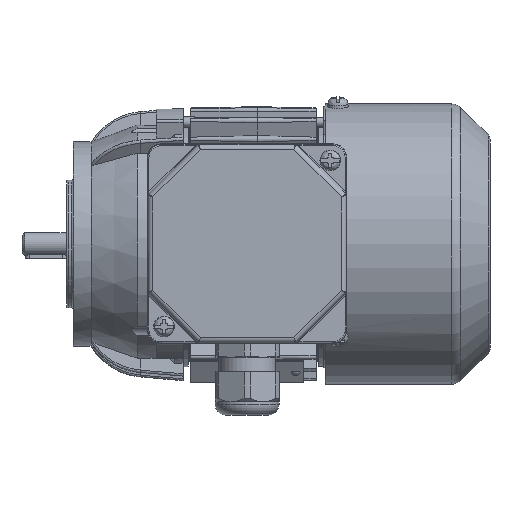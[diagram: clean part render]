
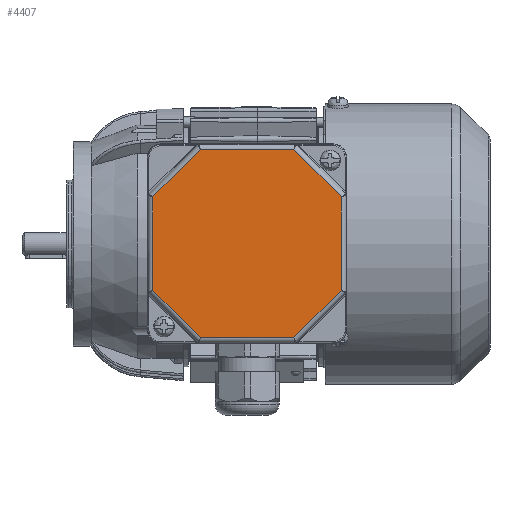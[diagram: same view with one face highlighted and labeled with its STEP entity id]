
A CAD part, top view. The second image highlights one B-rep face of the part: STEP entity #4407.
In plain terms, the highlighted planar face has unit normal (0, 0, 1).
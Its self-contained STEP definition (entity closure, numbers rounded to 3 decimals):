
#4407 = ADVANCED_FACE( '', ( #9156 ), #9157, .T. );
#9156 = FACE_OUTER_BOUND( '', #18505, .T. );
#9157 = PLANE( '', #18506 );
#18505 = EDGE_LOOP( '', ( #31515, #31516, #31517, #31518, #31519, #31520, #31521, #31522 ) );
#18506 = AXIS2_PLACEMENT_3D( '', #31523, #31524, #31525 );
#31515 = ORIENTED_EDGE( '', *, *, #41033, .T. );
#31516 = ORIENTED_EDGE( '', *, *, #41071, .T. );
#31517 = ORIENTED_EDGE( '', *, *, #40746, .T. );
#31518 = ORIENTED_EDGE( '', *, *, #39369, .T. );
#31519 = ORIENTED_EDGE( '', *, *, #41072, .T. );
#31520 = ORIENTED_EDGE( '', *, *, #41073, .T. );
#31521 = ORIENTED_EDGE( '', *, *, #41074, .T. );
#31522 = ORIENTED_EDGE( '', *, *, #41075, .T. );
#31523 = CARTESIAN_POINT( '', ( -39., 39., 12. ) );
#31524 = DIRECTION( '', ( 0., 0., 1. ) );
#31525 = DIRECTION( '', ( 1., 0., 0. ) );
#39369 = EDGE_CURVE( '', #47123, #47124, #47125, .T. );
#40746 = EDGE_CURVE( '', #47784, #47123, #49042, .F. );
#41033 = EDGE_CURVE( '', #49283, #43785, #49390, .F. );
#41071 = EDGE_CURVE( '', #43785, #47784, #49439, .T. );
#41072 = EDGE_CURVE( '', #47124, #49440, #49441, .F. );
#41073 = EDGE_CURVE( '', #49440, #46822, #49442, .T. );
#41074 = EDGE_CURVE( '', #46822, #48479, #49443, .F. );
#41075 = EDGE_CURVE( '', #48479, #49283, #49444, .T. );
#43785 = VERTEX_POINT( '', #53605 );
#46822 = VERTEX_POINT( '', #59597 );
#47123 = VERTEX_POINT( '', #60366 );
#47124 = VERTEX_POINT( '', #60367 );
#47125 = LINE( '', #60368, #60369 );
#47784 = VERTEX_POINT( '', #61636 );
#48479 = VERTEX_POINT( '', #62849 );
#49042 = LINE( '', #64143, #64144 );
#49283 = VERTEX_POINT( '', #64550 );
#49390 = LINE( '', #64806, #64807 );
#49439 = LINE( '', #64953, #64954 );
#49440 = VERTEX_POINT( '', #64955 );
#49441 = LINE( '', #64956, #64957 );
#49442 = LINE( '', #64958, #64959 );
#49443 = LINE( '', #64960, #64961 );
#49444 = LINE( '', #64962, #64963 );
#53605 = CARTESIAN_POINT( '', ( 36.825, 18.255, 12. ) );
#59597 = CARTESIAN_POINT( '', ( -18.255, -36.825, 12. ) );
#60366 = CARTESIAN_POINT( '', ( -18.255, 36.825, 12. ) );
#60367 = CARTESIAN_POINT( '', ( -36.825, 18.255, 12. ) );
#60368 = CARTESIAN_POINT( '', ( -37.401, 17.679, 12. ) );
#60369 = VECTOR( '', #70715, 1000. );
#61636 = CARTESIAN_POINT( '', ( 18.255, 36.825, 12. ) );
#62849 = CARTESIAN_POINT( '', ( 18.255, -36.825, 12. ) );
#64143 = CARTESIAN_POINT( '', ( -19.069, 36.825, 12. ) );
#64144 = VECTOR( '', #72474, 1000. );
#64550 = CARTESIAN_POINT( '', ( 36.825, -18.255, 12. ) );
#64806 = CARTESIAN_POINT( '', ( 36.825, 19.069, 12. ) );
#64807 = VECTOR( '', #72734, 1000. );
#64953 = CARTESIAN_POINT( '', ( 17.679, 37.401, 12. ) );
#64954 = VECTOR( '', #72778, 1000. );
#64955 = CARTESIAN_POINT( '', ( -36.825, -18.255, 12. ) );
#64956 = CARTESIAN_POINT( '', ( -36.825, -19.069, 12. ) );
#64957 = VECTOR( '', #72779, 1000. );
#64958 = CARTESIAN_POINT( '', ( -17.679, -37.401, 12. ) );
#64959 = VECTOR( '', #72780, 1000. );
#64960 = CARTESIAN_POINT( '', ( 19.069, -36.825, 12. ) );
#64961 = VECTOR( '', #72781, 1000. );
#64962 = CARTESIAN_POINT( '', ( 37.401, -17.679, 12. ) );
#64963 = VECTOR( '', #72782, 1000. );
#70715 = DIRECTION( '', ( -0.707, -0.707, 0. ) );
#72474 = DIRECTION( '', ( 1., 0., 0. ) );
#72734 = DIRECTION( '', ( 0., -1., 0. ) );
#72778 = DIRECTION( '', ( -0.707, 0.707, 0. ) );
#72779 = DIRECTION( '', ( 0., 1., 0. ) );
#72780 = DIRECTION( '', ( 0.707, -0.707, 0. ) );
#72781 = DIRECTION( '', ( -1., 0., 0. ) );
#72782 = DIRECTION( '', ( 0.707, 0.707, 0. ) );
